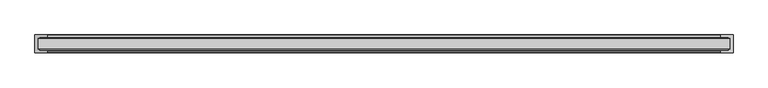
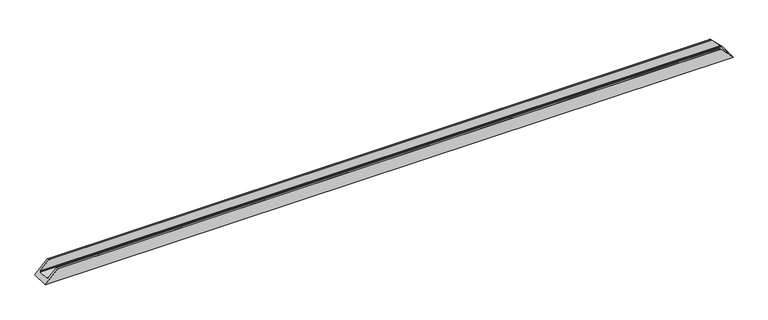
"""IFC4 building model written with IfcOpenShell, lengths in millimetres: proxy geometry, Weiku - Montante - Caixilho único 02.3.02.403 : Weiku - Montante - Caixilho único 02.3.02.403."""

from ifc_helpers import new_model, si_unit, frame, origin, place, context, project, spatial, ellipse_curve, source, transform, mapped, element, save
from ifc_brep_helpers import plane_surface, cylinder_surface, advanced_brep


def generic_models_d15ebd86(model_context):
    return source(origin(), model_context, "Body", "AdvancedBrep", [
        advanced_brep(
        [(-1510.0, -9.8, 18.2), (1510.0, -9.8, 18.2), (1472.3, -9.8, 55.9), (-1472.3, -9.8, 55.9), (-1512.5000079, -63.85, 15.6999921), (1512.5000079, -63.85, 15.6999921), (1512.5000079, -15.05, 15.6999921), (-1512.5000079, -15.05, 15.6999921), (-1528.2, -78.9, 0.0), (-1528.2, 0.0, 0.0), (1528.2, 0.0, 0.0), (1528.2, -78.9, 0.0), (-1472.3, 0.0, 55.9), (1472.3, 0.0, 55.9), (-1471.8, -9.3, 56.4), (1471.8, -9.3, 56.4), (1471.8, -0.5, 56.4), (-1471.8, -0.5, 56.4), (-1510.0, -15.05, 18.2), (1510.0, -15.05, 18.2), (-1510.0, -63.85, 18.2), (1510.0, -63.85, 18.2), (-1510.0, -69.1, 18.2), (1510.0, -69.1, 18.2), (-1472.3, -69.1, 55.9), (1472.3, -69.1, 55.9), (-1471.8, -78.4, 56.4), (1471.8, -78.4, 56.4), (1471.8, -69.6, 56.4), (-1471.8, -69.6, 56.4), (-1472.3, -78.9, 55.9), (1472.3, -78.9, 55.9)],
        [
            (0, 1),
            (1, 2),
            (2, 3),
            (3, 0),
            (4, 5),
            (5, 6),
            (6, 7),
            (7, 4),
            (8, 9),
            (9, 10),
            (10, 11),
            (11, 8),
            (9, 12),
            (12, 13),
            (13, 10),
            (14, 15),
            (15, 16),
            (16, 17),
            (17, 14),
            (18, 19),
            (19, 1),
            (0, 18),
            (6, 19),
            (18, 7),
            (16, 13, ellipse_curve(frame((1472.3, -0.5, 55.9), z_axis=(-0.7071067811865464, 0.0, -0.7071067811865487), x_axis=(-0.7071067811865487, 0.0, 0.7071067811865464)), 0.7071068, 0.5)),
            (12, 17, ellipse_curve(frame((-1472.3, -0.5, 55.9), z_axis=(0.7071067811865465, 0.0, -0.7071067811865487), x_axis=(-0.7071067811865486, 0.0, -0.7071067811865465)), 0.7071068, 0.5)),
            (20, 21),
            (21, 5),
            (4, 20),
            (22, 23),
            (23, 21),
            (20, 22),
            (24, 25),
            (25, 23),
            (22, 24),
            (26, 27),
            (27, 28),
            (28, 29),
            (29, 26),
            (30, 31),
            (31, 27, ellipse_curve(frame((1472.3, -78.4, 55.9), z_axis=(-0.7071067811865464, 0.0, -0.7071067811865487), x_axis=(-0.7071067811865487, 0.0, 0.7071067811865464)), 0.7071068, 0.5)),
            (26, 30, ellipse_curve(frame((-1472.3, -78.4, 55.9), z_axis=(0.7071067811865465, 0.0, -0.7071067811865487), x_axis=(-0.7071067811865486, 0.0, -0.7071067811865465)), 0.7071068, 0.5)),
            (11, 31),
            (30, 8),
            (2, 15, ellipse_curve(frame((1472.3, -9.3, 55.9), z_axis=(-0.7071067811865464, 0.0, -0.7071067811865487), x_axis=(-0.7071067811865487, 0.0, 0.7071067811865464)), 0.7071068, 0.5)),
            (14, 3, ellipse_curve(frame((-1472.3, -9.3, 55.9), z_axis=(0.7071067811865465, 0.0, -0.7071067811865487), x_axis=(-0.7071067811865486, 0.0, -0.7071067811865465)), 0.7071068, 0.5)),
            (28, 25, ellipse_curve(frame((1472.3, -69.6, 55.9), z_axis=(-0.7071067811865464, 0.0, -0.7071067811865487), x_axis=(-0.7071067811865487, 0.0, 0.7071067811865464)), 0.7071068, 0.5)),
            (24, 29, ellipse_curve(frame((-1472.3, -69.6, 55.9), z_axis=(0.7071067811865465, 0.0, -0.7071067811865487), x_axis=(-0.7071067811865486, 0.0, -0.7071067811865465)), 0.7071068, 0.5)),
        ],
        [
            plane_surface(frame((-1528.2, -9.8, 55.9), z_axis=(0.0, -1.0, 0.0), x_axis=(1.0, 0.0, 0.0))),
            plane_surface(frame((-1528.2, -15.05, 15.6999921), z_axis=(0.0, 0.0, 1.0), x_axis=(1.0, 0.0, 0.0))),
            plane_surface(frame((-1528.2, -78.9, 0.0), z_axis=(0.0, 0.0, -1.0), x_axis=(1.0, 0.0, 0.0))),
            plane_surface(frame((-1528.2, 0.0, 0.0), z_axis=(0.0, 1.0, 0.0), x_axis=(1.0, 0.0, 0.0))),
            plane_surface(frame((-1528.2, -0.5, 56.4), z_axis=(0.0, 0.0, 1.0), x_axis=(1.0, 0.0, 0.0))),
            plane_surface(frame((-1528.2, -9.8, 18.2), z_axis=(0.0, 0.0, 1.0), x_axis=(1.0, 0.0, 0.0))),
            plane_surface(frame((-1528.2, -15.05, 18.2), z_axis=(0.0, -1.0, 0.0), x_axis=(1.0, 0.0, 0.0))),
            cylinder_surface(frame((-1528.2, -0.5, 55.9), z_axis=(-1.0, 0.0, 0.0), x_axis=(0.0, -1.0, 0.0)), 0.5),
            plane_surface(frame((-1528.2, -63.85, 15.6999921), z_axis=(0.0, 1.0, 0.0), x_axis=(1.0, 0.0, 0.0))),
            plane_surface(frame((-1528.2, -63.85, 18.2), z_axis=(0.0, 0.0, 1.0), x_axis=(1.0, 0.0, 0.0))),
            plane_surface(frame((-1528.2, -69.1, 18.2), z_axis=(0.0, 1.0, 0.0), x_axis=(1.0, 0.0, 0.0))),
            plane_surface(frame((-1528.2, -69.6, 56.4), z_axis=(0.0, 0.0, 1.0), x_axis=(1.0, 0.0, 0.0))),
            cylinder_surface(frame((-1528.2, -78.4, 55.9), z_axis=(-1.0, 0.0, 0.0), x_axis=(0.0, 1.0, 0.0)), 0.5),
            plane_surface(frame((-1528.2, -78.9, 55.9), z_axis=(0.0, -1.0, 0.0), x_axis=(1.0, 0.0, 0.0))),
            cylinder_surface(frame((-1528.2, -9.3, 55.9), z_axis=(-1.0, 0.0, 0.0), x_axis=(0.0, -1.0, 0.0)), 0.5),
            cylinder_surface(frame((-1528.2, -69.6, 55.9), z_axis=(-1.0, 0.0, 0.0), x_axis=(0.0, -1.0, 0.0)), 0.5),
            plane_surface(frame((-1528.2, 0.0, 0.0), z_axis=(-0.7071067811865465, 0.0, 0.7071067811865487), x_axis=(0.0, -1.0, 0.0))),
            plane_surface(frame((1468.2, 0.0, 60.0), z_axis=(0.7071067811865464, 0.0, 0.7071067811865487), x_axis=(0.0, -1.0, 0.0))),
        ],
        [
            (0, [[1, 2, 3, 4]]),
            (1, [[5, 6, 7, 8]]),
            (2, [[9, 10, 11, 12]]),
            (3, [[13, 14, 15, -10]]),
            (4, [[16, 17, 18, 19]]),
            (5, [[20, 21, -1, 22]]),
            (6, [[-7, 23, -20, 24]]),
            (7, [[-18, 25, -14, 26]]),
            (8, [[27, 28, -5, 29]]),
            (9, [[30, 31, -27, 32]]),
            (10, [[33, 34, -30, 35]]),
            (11, [[36, 37, 38, 39]]),
            (12, [[40, 41, -36, 42]]),
            (13, [[43, -40, 44, -12]]),
            (14, [[-3, 45, -16, 46]]),
            (15, [[-38, 47, -33, 48]]),
            (16, [[-46, -19, -26, -13, -9, -44, -42, -39, -48, -35, -32, -29, -8, -24, -22, -4]]),
            (17, [[-21, -23, -6, -28, -31, -34, -47, -37, -41, -43, -11, -15, -25, -17, -45, -2]]),
        ],
    ),
    ])


if __name__ == "__main__":
    model = new_model("IFC4")
    model_context = context("Model", 3, world=origin())
    ifc_project = project(units=[si_unit("LENGTHUNIT", "METRE", prefix="MILLI")], contexts=[model_context])
    site = spatial("IfcSite", under=ifc_project)
    building = spatial("IfcBuilding", under=site)
    placement = place(None, origin())
    generic_models_shape = generic_models_d15ebd86(model_context)
    element("IfcBuildingElementProxy", 1, Name="Weiku - Montante - Caixilho único 02.3.02.403 : Weiku - Montante - Caixilho único 02.3.02.403", ObjectType="Weiku - Montante - Caixilho único 02.3.02.403 : Weiku - Montante - Caixilho único 02.3.02.403", at=placement, inside=building, context=model_context, shape_type="MappedRepresentation", body=[
        mapped(generic_models_shape, transform((0.0, 0.0, 0.0), x_axis=(1.0, 0.0, 0.0), y_axis=(0.0, 1.0, 0.0), z_axis=(0.0, 0.0, 1.0))),
    ])
    save(model, "model.ifc")
